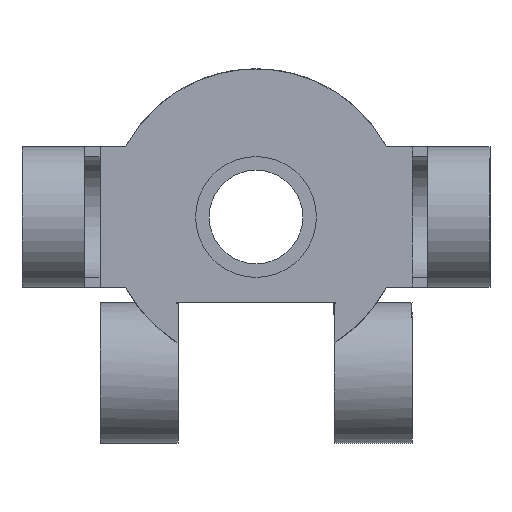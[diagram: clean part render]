
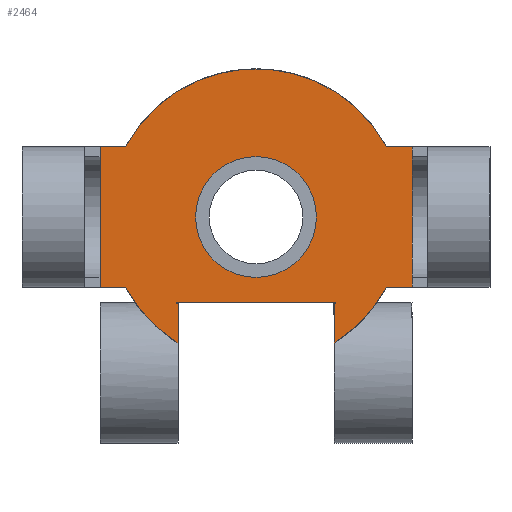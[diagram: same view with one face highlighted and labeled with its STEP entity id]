
A CAD part, left-side view. The second image highlights one B-rep face of the part: STEP entity #2464.
In plain terms, the highlighted planar face has unit normal (-1, 0, 0).
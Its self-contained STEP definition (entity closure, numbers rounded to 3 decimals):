
#174=LINE('',#4079,#372);
#178=LINE('',#4089,#376);
#180=LINE('',#4093,#378);
#185=LINE('',#4105,#383);
#189=LINE('',#4130,#387);
#198=LINE('',#4166,#396);
#214=LINE('',#4233,#412);
#215=LINE('',#4235,#413);
#216=LINE('',#4237,#414);
#372=VECTOR('',#3342,1000.);
#376=VECTOR('',#3352,1000.);
#378=VECTOR('',#3356,1000.);
#383=VECTOR('',#3367,1000.);
#387=VECTOR('',#3383,1000.);
#396=VECTOR('',#3408,1000.);
#412=VECTOR('',#3480,1000.);
#413=VECTOR('',#3481,1000.);
#414=VECTOR('',#3482,1000.);
#1134=ORIENTED_EDGE('',*,*,#1520,.F.);
#1135=ORIENTED_EDGE('',*,*,#1491,.T.);
#1136=ORIENTED_EDGE('',*,*,#1461,.T.);
#1137=ORIENTED_EDGE('',*,*,#1459,.T.);
#1138=ORIENTED_EDGE('',*,*,#1467,.F.);
#1139=ORIENTED_EDGE('',*,*,#1496,.T.);
#1140=ORIENTED_EDGE('',*,*,#1475,.T.);
#1141=ORIENTED_EDGE('',*,*,#1457,.T.);
#1142=ORIENTED_EDGE('',*,*,#1454,.F.);
#1143=ORIENTED_EDGE('',*,*,#1451,.T.);
#1144=ORIENTED_EDGE('',*,*,#1489,.T.);
#1145=ORIENTED_EDGE('',*,*,#1495,.T.);
#1146=ORIENTED_EDGE('',*,*,#1521,.T.);
#1147=ORIENTED_EDGE('',*,*,#1522,.F.);
#1148=ORIENTED_EDGE('',*,*,#1448,.F.);
#1448=EDGE_CURVE('',#1722,#1722,#1890,.T.);
#1451=EDGE_CURVE('',#1723,#1724,#1891,.T.);
#1454=EDGE_CURVE('',#1723,#1725,#174,.T.);
#1457=EDGE_CURVE('',#1726,#1725,#1892,.T.);
#1459=EDGE_CURVE('',#1728,#1727,#178,.T.);
#1461=EDGE_CURVE('',#1729,#1728,#180,.T.);
#1467=EDGE_CURVE('',#1732,#1727,#185,.T.);
#1475=EDGE_CURVE('',#1737,#1726,#189,.T.);
#1489=EDGE_CURVE('',#1724,#1744,#198,.T.);
#1491=EDGE_CURVE('',#1745,#1729,#1898,.T.);
#1495=EDGE_CURVE('',#1744,#1748,#1899,.T.);
#1496=EDGE_CURVE('',#1732,#1737,#1900,.T.);
#1520=EDGE_CURVE('',#1745,#1768,#214,.T.);
#1521=EDGE_CURVE('',#1748,#1769,#215,.T.);
#1522=EDGE_CURVE('',#1768,#1769,#216,.T.);
#1722=VERTEX_POINT('',#4069);
#1723=VERTEX_POINT('',#4072);
#1724=VERTEX_POINT('',#4074);
#1725=VERTEX_POINT('',#4080);
#1726=VERTEX_POINT('',#4084);
#1727=VERTEX_POINT('',#4088);
#1728=VERTEX_POINT('',#4090);
#1729=VERTEX_POINT('',#4094);
#1732=VERTEX_POINT('',#4104);
#1737=VERTEX_POINT('',#4131);
#1744=VERTEX_POINT('',#4165);
#1745=VERTEX_POINT('',#4170);
#1748=VERTEX_POINT('',#4176);
#1768=VERTEX_POINT('',#4234);
#1769=VERTEX_POINT('',#4236);
#1890=CIRCLE('',#2699,3.1);
#1891=CIRCLE('',#2701,6.);
#1892=CIRCLE('',#2704,6.);
#1898=CIRCLE('',#2725,7.6);
#1899=CIRCLE('',#2727,7.6);
#1900=CIRCLE('',#2728,7.6);
#2082=EDGE_LOOP('',(#1134,#1135,#1136,#1137,#1138,#1139,#1140,#1141,#1142,
#1143,#1144,#1145,#1146,#1147));
#2083=EDGE_LOOP('',(#1148));
#2262=FACE_BOUND('',#2082,.T.);
#2263=FACE_BOUND('',#2083,.T.);
#2330=PLANE('',#2751);
#2464=ADVANCED_FACE('',(#2262,#2263),#2330,.F.);
#2699=AXIS2_PLACEMENT_3D('',#4068,#3330,#3331);
#2701=AXIS2_PLACEMENT_3D('',#4075,#3336,#3337);
#2704=AXIS2_PLACEMENT_3D('',#4085,#3347,#3348);
#2725=AXIS2_PLACEMENT_3D('',#4169,#3412,#3413);
#2727=AXIS2_PLACEMENT_3D('',#4177,#3418,#3419);
#2728=AXIS2_PLACEMENT_3D('',#4178,#3420,#3421);
#2751=AXIS2_PLACEMENT_3D('',#4232,#3478,#3479);
#3330=DIRECTION('',(-1.,0.,0.));
#3331=DIRECTION('',(0.,-1.,0.));
#3336=DIRECTION('',(1.,0.,0.));
#3337=DIRECTION('',(0.,0.,-1.));
#3342=DIRECTION('',(0.,1.,0.));
#3347=DIRECTION('',(1.,0.,0.));
#3348=DIRECTION('',(0.,0.,-1.));
#3352=DIRECTION('',(0.,0.,-1.));
#3356=DIRECTION('',(0.,1.,0.));
#3367=DIRECTION('',(0.,1.,0.));
#3383=DIRECTION('',(0.,0.,1.));
#3408=DIRECTION('',(0.,0.,-1.));
#3412=DIRECTION('',(-1.,0.,0.));
#3413=DIRECTION('',(0.,0.,-1.));
#3418=DIRECTION('',(-1.,0.,0.));
#3419=DIRECTION('',(0.,0.,-1.));
#3420=DIRECTION('',(-1.,0.,0.));
#3421=DIRECTION('',(0.,0.,-1.));
#3478=DIRECTION('',(1.,0.,0.));
#3479=DIRECTION('',(0.,-1.,0.));
#3480=DIRECTION('',(0.,-1.,0.));
#3481=DIRECTION('',(0.,-1.,0.));
#3482=DIRECTION('',(0.,0.,-1.));
#4068=CARTESIAN_POINT('',(-16.,0.,0.));
#4069=CARTESIAN_POINT('',(-16.,-3.1,0.));
#4072=CARTESIAN_POINT('',(-16.,-4.079,-4.4));
#4074=CARTESIAN_POINT('',(-16.,-4.,-4.472));
#4075=CARTESIAN_POINT('',(-16.,0.,0.));
#4079=CARTESIAN_POINT('',(-16.,0.,-4.4));
#4080=CARTESIAN_POINT('',(-16.,4.079,-4.4));
#4084=CARTESIAN_POINT('',(-16.,4.,-4.472));
#4085=CARTESIAN_POINT('',(-16.,0.,0.));
#4088=CARTESIAN_POINT('',(-16.,8.,-3.6));
#4089=CARTESIAN_POINT('',(-16.,8.,3.6));
#4090=CARTESIAN_POINT('',(-16.,8.,3.6));
#4093=CARTESIAN_POINT('',(-16.,7.6,3.6));
#4094=CARTESIAN_POINT('',(-16.,6.693,3.6));
#4104=CARTESIAN_POINT('',(-16.,6.693,-3.6));
#4105=CARTESIAN_POINT('',(-16.,8.,-3.6));
#4130=CARTESIAN_POINT('',(-16.,4.,-4.472));
#4131=CARTESIAN_POINT('',(-16.,4.,-6.462));
#4165=CARTESIAN_POINT('',(-16.,-4.,-6.462));
#4166=CARTESIAN_POINT('',(-16.,-4.,-4.472));
#4169=CARTESIAN_POINT('',(-16.,0.,0.));
#4170=CARTESIAN_POINT('',(-16.,-6.693,3.6));
#4176=CARTESIAN_POINT('',(-16.,-6.693,-3.6));
#4177=CARTESIAN_POINT('',(-16.,0.,0.));
#4178=CARTESIAN_POINT('',(-16.,0.,0.));
#4232=CARTESIAN_POINT('',(-16.,0.,0.));
#4233=CARTESIAN_POINT('',(-16.,-7.6,3.6));
#4234=CARTESIAN_POINT('',(-16.,-8.,3.6));
#4235=CARTESIAN_POINT('',(-16.,-8.,-3.6));
#4236=CARTESIAN_POINT('',(-16.,-8.,-3.6));
#4237=CARTESIAN_POINT('',(-16.,-8.,3.6));
